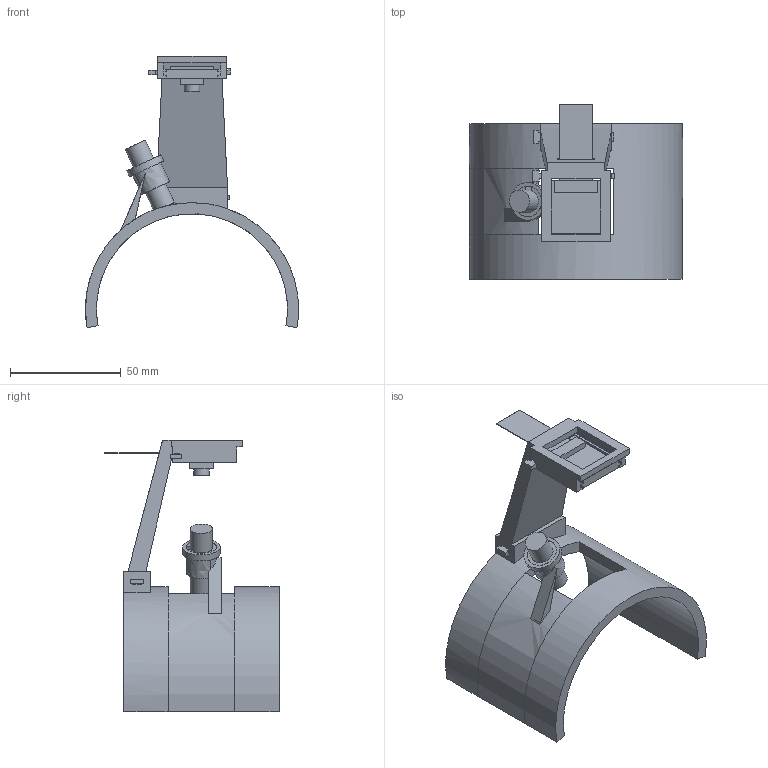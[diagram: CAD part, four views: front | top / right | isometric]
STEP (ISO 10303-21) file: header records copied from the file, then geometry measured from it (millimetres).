
FILE_DESCRIPTION(('SolidCraft model'),'2;1');
FILE_NAME('assembly_wide.step','',(''),(''),'SolidCraft','SolidCraft','');
FILE_SCHEMA(('AP242_MANAGED_MODEL_BASED_3D_ENGINEERING_MIM_LF { 1 0 10303 442 1 1 4 }'));
Length unit declared in the file: millimetre
Products named in the file (1): assembly_wide
Bounding box: 95.99 x 78.46 x 122.27 mm (x, y, z)
Volume: 73329 mm3; surface area: 39790.3 mm2
Topology: 10 solids, 10 shells, 169 faces, 485 edges, 334 vertices
Faces by surface type: plane 156, cylinder 8, bspline 5
Full cylindrical faces by diameter (mm): 6.95 x1, 10 x1, 13.7 x1, 17 x1
Entity records: 4721 total; most frequent: ORIENTED_EDGE 970, CARTESIAN_POINT 921, EDGE_CURVE 485, LINE 420, VERTEX_POINT 334, VECTOR 325, DIRECTION 316, EDGE_LOOP 187
